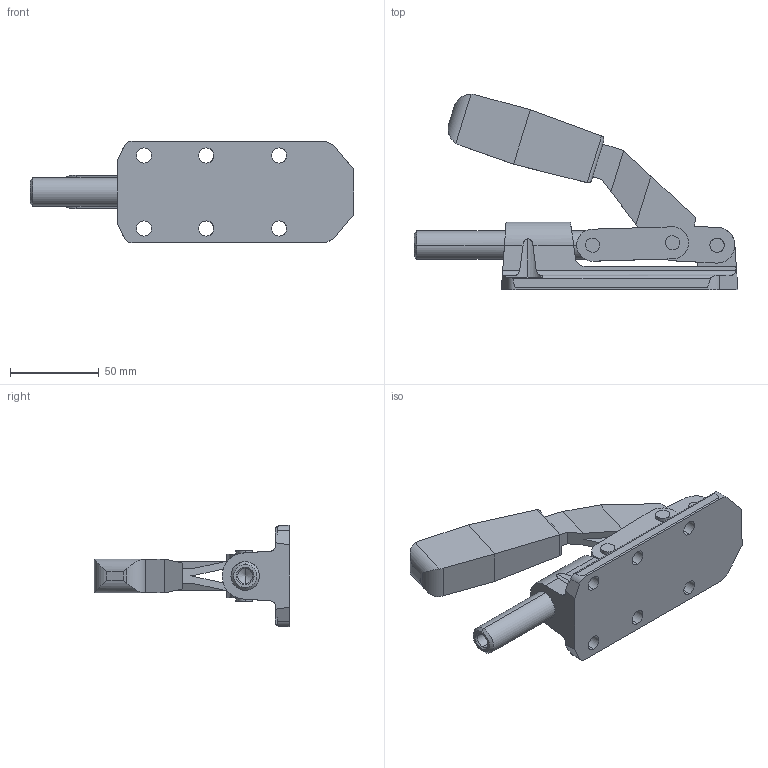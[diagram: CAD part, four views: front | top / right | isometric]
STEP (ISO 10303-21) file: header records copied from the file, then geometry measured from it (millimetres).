
FILE_DESCRIPTION (( 'STEP AP214' ), '1' );
FILE_NAME ('842-1100-AS.step', '2022-10-26T07:52:44', ( '' ), ( '' ), 'SwSTEP 2.0', 'SolidWorks 2022', '' );
FILE_SCHEMA (( 'AUTOMOTIVE_DESIGN' ));
Length unit declared in the file: millimetre
Products named in the file (5): 842-1100-AS; 1100_AS0-4^WB842-1100; 1100_AS-2^WB842-1100; 1100_AS0-3^WB842-1100; 1100_AS-1^WB842-1100
Assembly tree (4 placements, depth 2):
  842-1100-AS
    1100_AS0-4^WB842-1100
    1100_AS0-3^WB842-1100
    1100_AS-2^WB842-1100
    1100_AS-1^WB842-1100
Bounding box: 182 x 109.84 x 57 mm (x, y, z)
Volume: 183825.6 mm3; surface area: 55602.4 mm2
Topology: 4 solids, 4 shells, 165 faces, 447 edges, 291 vertices
Faces by surface type: cylinder 79, plane 78, cone 8
Entity records: 7271 total; most frequent: CARTESIAN_POINT 1427, ORIENTED_EDGE 890, DIRECTION 865, EDGE_CURVE 445, AXIS2_PLACEMENT_3D 303, VERTEX_POINT 291, VECTOR 259, LINE 259
